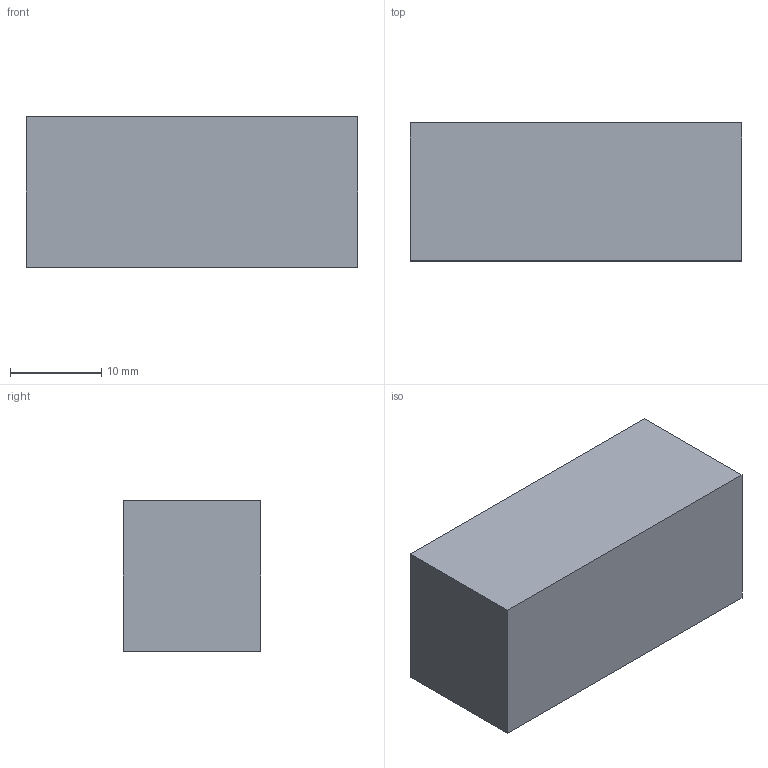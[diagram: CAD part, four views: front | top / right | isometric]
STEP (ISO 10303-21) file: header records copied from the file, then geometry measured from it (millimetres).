
FILE_DESCRIPTION (( 'STEP AP214' ), '1' );
FILE_NAME ('Conjunt PP57A.STEP', '2016-10-16T18:46:54', ( 'aaa' ), ( '' ), 'SwSTEP 2.0', 'SolidWorks 2013', '' );
FILE_SCHEMA (( 'AUTOMOTIVE_DESIGN' ));
Length unit declared in the file: millimetre
Products named in the file (2): Conjunt PP57A; Cuerpo PP57A
Assembly tree (1 placements, depth 2):
  Conjunt PP57A
    Cuerpo PP57A
Bounding box: 36.3 x 15.1 x 16.5 mm (x, y, z)
Volume: 2033.4 mm3; surface area: 4187.8 mm2
Topology: 1 solids, 1 shells, 27 faces, 72 edges, 48 vertices
Faces by surface type: plane 27
Entity records: 892 total; most frequent: CARTESIAN_POINT 151, ORIENTED_EDGE 144, DIRECTION 134, EDGE_CURVE 72, VECTOR 72, LINE 72, VERTEX_POINT 48, AXIS2_PLACEMENT_3D 31
